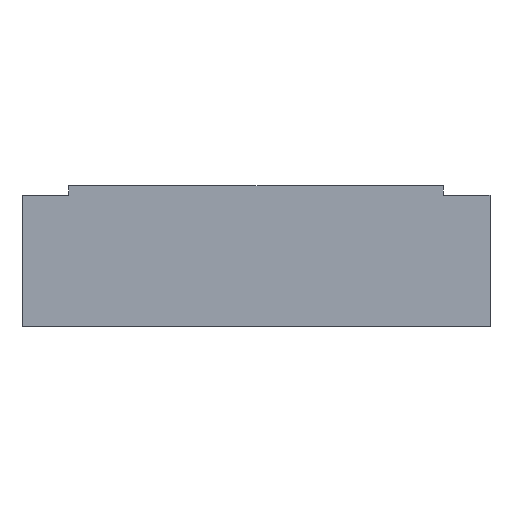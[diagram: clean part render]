
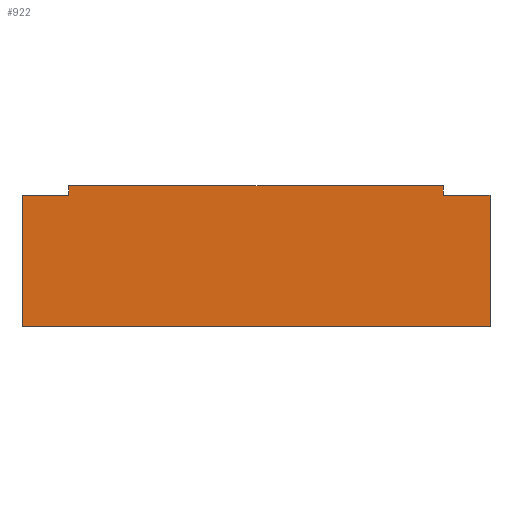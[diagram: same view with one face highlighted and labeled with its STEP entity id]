
A CAD part, left-side view. The second image highlights one B-rep face of the part: STEP entity #922.
In plain terms, the highlighted planar face has unit normal (-1, 0, 0).
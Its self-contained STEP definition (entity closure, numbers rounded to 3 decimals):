
#1 = ORIENTED_EDGE ( 'NONE', *, *, #1831, .F. ) ;
#93 = VERTEX_POINT ( 'NONE', #2562 ) ;
#184 = CARTESIAN_POINT ( 'NONE',  ( -88., -40., 28. ) ) ;
#246 = CARTESIAN_POINT ( 'NONE',  ( -88., -50., 30. ) ) ;
#259 = CARTESIAN_POINT ( 'NONE',  ( -88., -50., 0. ) ) ;
#448 = ORIENTED_EDGE ( 'NONE', *, *, #3161, .T. ) ;
#460 = EDGE_CURVE ( 'NONE', #2968, #93, #597, .T. ) ;
#462 = CARTESIAN_POINT ( 'NONE',  ( -88., 58.266, 28. ) ) ;
#503 = DIRECTION ( 'NONE',  ( 0., 0., -1. ) ) ;
#597 = LINE ( 'NONE', #2178, #2227 ) ;
#606 = EDGE_CURVE ( 'NONE', #2213, #3198, #2136, .T. ) ;
#701 = EDGE_LOOP ( 'NONE', ( #1, #1649, #794, #1982, #3561, #3325, #1190, #448 ) ) ;
#794 = ORIENTED_EDGE ( 'NONE', *, *, #1740, .F. ) ;
#803 = VECTOR ( 'NONE', #503, 1000. ) ;
#812 = LINE ( 'NONE', #462, #1599 ) ;
#843 = VECTOR ( 'NONE', #3670, 1000. ) ;
#922 = ADVANCED_FACE ( 'NONE', ( #2847 ), #1444, .F. ) ;
#1075 = LINE ( 'NONE', #2921, #1489 ) ;
#1176 = CARTESIAN_POINT ( 'NONE',  ( -88., 50., 0. ) ) ;
#1190 = ORIENTED_EDGE ( 'NONE', *, *, #2945, .T. ) ;
#1332 = CARTESIAN_POINT ( 'NONE',  ( -88., -50., 30. ) ) ;
#1343 = CARTESIAN_POINT ( 'NONE',  ( -88., 50., 30. ) ) ;
#1406 = LINE ( 'NONE', #1343, #1928 ) ;
#1437 = CARTESIAN_POINT ( 'NONE',  ( -88., -40., 30. ) ) ;
#1444 = PLANE ( 'NONE',  #2838 ) ;
#1489 = VECTOR ( 'NONE', #2022, 1000. ) ;
#1599 = VECTOR ( 'NONE', #3319, 1000. ) ;
#1649 = ORIENTED_EDGE ( 'NONE', *, *, #460, .F. ) ;
#1667 = VERTEX_POINT ( 'NONE', #2478 ) ;
#1740 = EDGE_CURVE ( 'NONE', #3198, #2968, #3707, .T. ) ;
#1741 = VERTEX_POINT ( 'NONE', #2527 ) ;
#1744 = CARTESIAN_POINT ( 'NONE',  ( -88., -50., 30. ) ) ;
#1831 = EDGE_CURVE ( 'NONE', #93, #2756, #2425, .T. ) ;
#1860 = EDGE_CURVE ( 'NONE', #1741, #2213, #1075, .T. ) ;
#1867 = DIRECTION ( 'NONE',  ( 0., -1., 0. ) ) ;
#1928 = VECTOR ( 'NONE', #3624, 1000. ) ;
#1967 = VERTEX_POINT ( 'NONE', #1176 ) ;
#1982 = ORIENTED_EDGE ( 'NONE', *, *, #606, .F. ) ;
#2022 = DIRECTION ( 'NONE',  ( 0., 0., 1. ) ) ;
#2028 = DIRECTION ( 'NONE',  ( 0., 0., -1. ) ) ;
#2048 = DIRECTION ( 'NONE',  ( 1., 0., 0. ) ) ;
#2136 = LINE ( 'NONE', #1332, #843 ) ;
#2178 = CARTESIAN_POINT ( 'NONE',  ( -88., -40., 28. ) ) ;
#2213 = VERTEX_POINT ( 'NONE', #2751 ) ;
#2227 = VECTOR ( 'NONE', #1867, 1000. ) ;
#2240 = VECTOR ( 'NONE', #2270, 1000. ) ;
#2270 = DIRECTION ( 'NONE',  ( 0., 0., -1. ) ) ;
#2425 = LINE ( 'NONE', #246, #2240 ) ;
#2478 = CARTESIAN_POINT ( 'NONE',  ( -88., 50., 28. ) ) ;
#2527 = CARTESIAN_POINT ( 'NONE',  ( -88., 40., 28. ) ) ;
#2562 = CARTESIAN_POINT ( 'NONE',  ( -88., -50., 28. ) ) ;
#2751 = CARTESIAN_POINT ( 'NONE',  ( -88., 40., 30. ) ) ;
#2756 = VERTEX_POINT ( 'NONE', #259 ) ;
#2838 = AXIS2_PLACEMENT_3D ( 'NONE', #1744, #2048, #2028 ) ;
#2847 = FACE_OUTER_BOUND ( 'NONE', #701, .T. ) ;
#2916 = VECTOR ( 'NONE', #3483, 1000. ) ;
#2921 = CARTESIAN_POINT ( 'NONE',  ( -88., 40., 28. ) ) ;
#2945 = EDGE_CURVE ( 'NONE', #1667, #1967, #1406, .T. ) ;
#2968 = VERTEX_POINT ( 'NONE', #3106 ) ;
#3001 = LINE ( 'NONE', #3470, #2916 ) ;
#3106 = CARTESIAN_POINT ( 'NONE',  ( -88., -40., 28. ) ) ;
#3161 = EDGE_CURVE ( 'NONE', #1967, #2756, #3001, .T. ) ;
#3198 = VERTEX_POINT ( 'NONE', #1437 ) ;
#3319 = DIRECTION ( 'NONE',  ( 0., -1., 0. ) ) ;
#3325 = ORIENTED_EDGE ( 'NONE', *, *, #3402, .F. ) ;
#3402 = EDGE_CURVE ( 'NONE', #1667, #1741, #812, .T. ) ;
#3470 = CARTESIAN_POINT ( 'NONE',  ( -88., -50., 0. ) ) ;
#3483 = DIRECTION ( 'NONE',  ( 0., -1., 0. ) ) ;
#3561 = ORIENTED_EDGE ( 'NONE', *, *, #1860, .F. ) ;
#3624 = DIRECTION ( 'NONE',  ( 0., 0., -1. ) ) ;
#3670 = DIRECTION ( 'NONE',  ( 0., -1., 0. ) ) ;
#3707 = LINE ( 'NONE', #184, #803 ) ;
